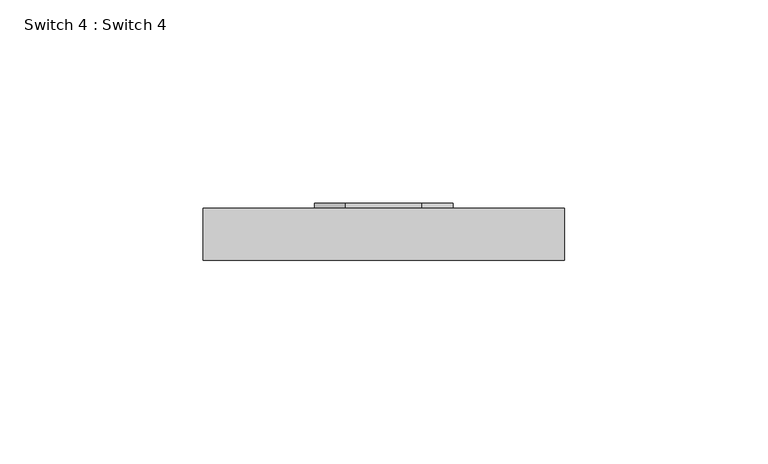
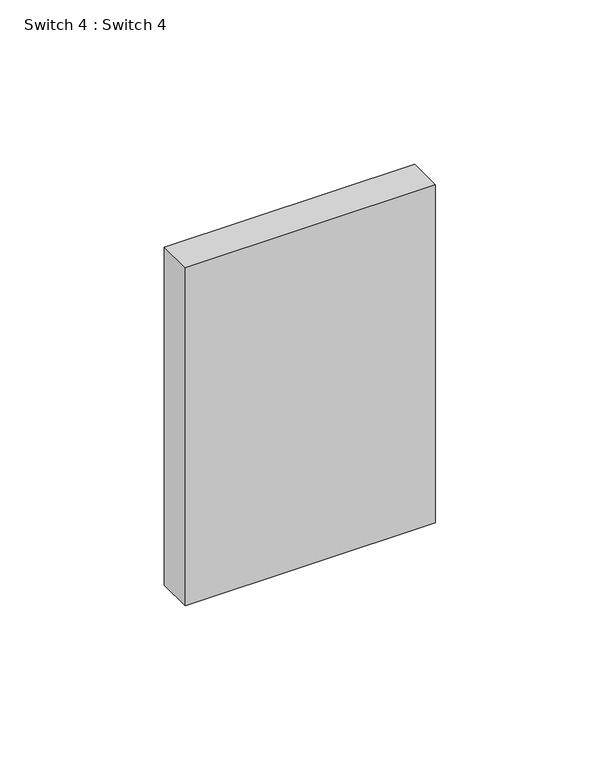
"""IFC4 building model written with IfcOpenShell, lengths in millimetres: proxy geometry, Switch 4 : Switch 4."""

from ifc_helpers import new_model, si_unit, point, frame, frame_2d, origin, origin_with_axes, place, context, project, spatial, polyline, circle_curve, trimmed, segment, composite_curve, outline, extrude, source, transform, mapped, element, save


def switch_4_switch_4_f86bb9e3(model_context):
    return source(origin(), model_context, "Body", "SweptSolid", [
        extrude(outline(composite_curve([segment(trimmed(circle_curve(frame_2d((82.4798936, -3.5837423)), 17.0868414), [point((68.2801213, 5.9202893))], [point((96.6796658, 5.9202893))], False, "CARTESIAN"), True, "CONTINUOUS"), segment(polyline([(96.6796658, 5.9202893), (96.6796658, -12.9262487)]), True, "CONTINUOUS"), segment(trimmed(circle_curve(frame_2d((82.4798936, -3.4222171)), 17.0868414), [point((96.6796658, -12.9262487))], [point((68.2801213, -12.9262487))], False, "CARTESIAN"), True, "CONTINUOUS"), segment(polyline([(68.2801213, -12.9262487), (68.2801213, 5.9202893)]), True, "CONTINUOUS")], self_intersect=False), holes=[polyline([(90.9925395, -7.8196757), (80.3658495, -7.8196757), (80.3658495, -11.4805789), (90.9925395, -11.4805789), (90.9925395, -7.8196757)]), polyline([(90.1141154, 1.1513928), (90.1141154, 4.9758919), (81.1133514, 4.9758919), (81.1133514, 1.1513928), (90.1141154, 1.1513928)]), composite_curve([segment(polyline([(69.8855737, 0.1642359), (69.8855737, -6.996524), (73.3301943, -6.996524)]), True, "CONTINUOUS"), segment(trimmed(circle_curve(frame_2d((73.3301943, -3.416144)), 3.58038), [point((73.3301943, -6.996524))], [point((73.3301943, 0.1642359))], True, "CARTESIAN"), True, "CONTINUOUS"), segment(polyline([(73.3301943, 0.1642359), (69.8855737, 0.1642359)]), True, "CONTINUOUS")], self_intersect=False)]), frame((0.0, 12.7, 0.0), z_axis=(0.0, 1.0, 0.0), x_axis=(0.0, 0.0, 1.0)), (0.0, 0.0, 1.0), 1.2829052),
        extrude(outline(composite_curve([segment(trimmed(circle_curve(frame_2d((44.4498105, -3.5833425)), 17.002253), [point((30.3203342, 5.8736395))], [point((58.5792868, 5.8736395))], False, "CARTESIAN"), True, "CONTINUOUS"), segment(polyline([(58.5792868, 5.8736395), (58.5792868, -12.8795988)]), True, "CONTINUOUS"), segment(trimmed(circle_curve(frame_2d((44.4498105, -3.4226169)), 17.002253), [point((58.5792868, -12.8795988))], [point((30.3203342, -12.8795988))], False, "CARTESIAN"), True, "CONTINUOUS"), segment(polyline([(30.3203342, -12.8795988), (30.3203342, 5.8736395)]), True, "CONTINUOUS")], self_intersect=False), holes=[polyline([(51.9853376, -7.7983059), (43.0088646, -7.7983059), (43.0088646, -11.4410858), (51.9853376, -11.4410858), (51.9853376, -7.7983059)]), polyline([(52.0462391, 1.1283513), (52.0462391, 4.9339173), (43.0900334, 4.9339173), (43.0900334, 1.1283513), (52.0462391, 1.1283513)]), composite_curve([segment(polyline([(31.9178388, 0.1460814), (31.9178388, -6.9792292), (35.3454067, -6.9792292)]), True, "CONTINUOUS"), segment(trimmed(circle_curve(frame_2d((35.3454067, -3.4165739)), 3.5626553), [point((35.3454067, -6.9792292))], [point((35.3454067, 0.1460814))], True, "CARTESIAN"), True, "CONTINUOUS"), segment(polyline([(35.3454067, 0.1460814), (31.9178388, 0.1460814)]), True, "CONTINUOUS")], self_intersect=False)]), frame((0.0, 12.7, 0.0), z_axis=(0.0, 1.0, 0.0), x_axis=(0.0, 0.0, 1.0)), (0.0, 0.0, 1.0), 1.2829052),
        extrude(outline(polyline([(-47.9529797, 12.7), (40.9470203, 12.7), (40.9470203, 0.0), (-47.9529797, 0.0), (-47.9529797, 12.7)])), origin_with_axes(), (0.0, 0.0, 1.0), 127.0),
    ])


if __name__ == "__main__":
    model = new_model("IFC4")
    model_context = context("Model", 3, world=origin())
    ifc_project = project(units=[si_unit("LENGTHUNIT", "METRE", prefix="MILLI")], contexts=[model_context])
    site = spatial("IfcSite", under=ifc_project)
    building = spatial("IfcBuilding", under=site)
    placement = place(None, origin())
    switch_4_switch_4_shape = switch_4_switch_4_f86bb9e3(model_context)
    element("IfcBuildingElementProxy", 1, Name="Switch 4 : Switch 4", ObjectType="Switch 4 : Switch 4", at=placement, inside=building, context=model_context, shape_type="MappedRepresentation", body=[
        mapped(switch_4_switch_4_shape, transform((0.0, 0.0, 0.0), x_axis=(1.0, 0.0, 0.0), y_axis=(0.0, 1.0, 0.0), z_axis=(0.0, 0.0, 1.0))),
    ])
    save(model, "model.ifc")
